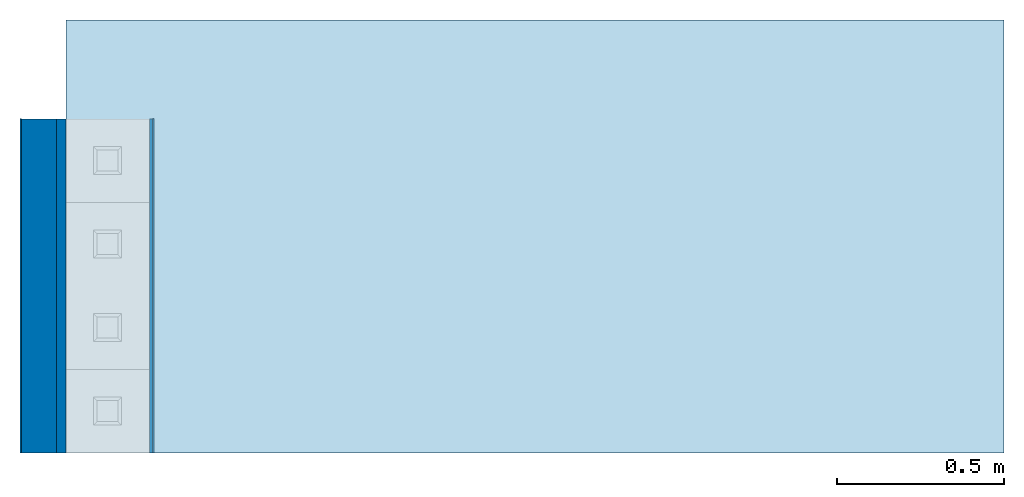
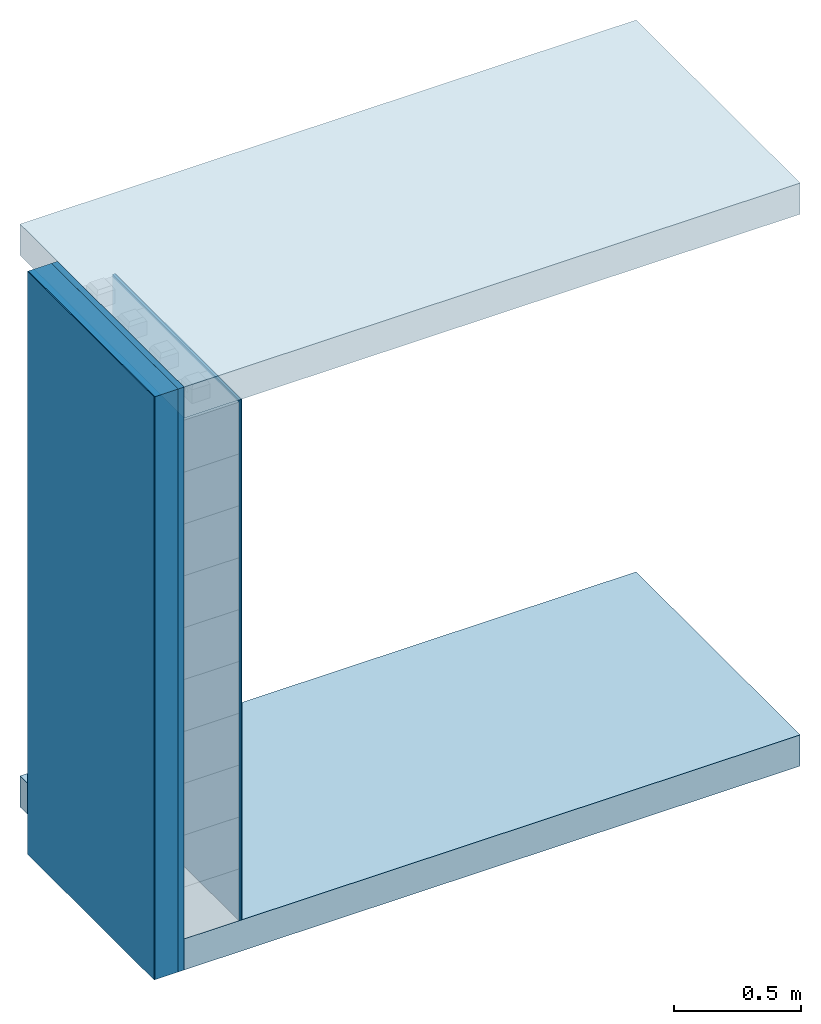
# One storey, incomplete: 5 walls, 2 slabs.
"""IFC4 building model written with IfcOpenShell, lengths in centimetres."""

from ifc_helpers import new_model, entity, si_unit, converted_unit, direction, frame, origin, place, context, subcontext, project, spatial, indexed_curve, outline, extrude, material, constituent, constituent_set, type_object, element, save


model = new_model("IFC4")

# Units and contexts
model_context = context("Model", 3, precision=0.001, world=origin(), true_north=direction((0.0, 1.0)))
body_context = subcontext(model_context, "Body", "Model", "MODEL_VIEW")
ifc_project = project(units=[si_unit("LENGTHUNIT", "METRE", prefix="CENTI"), si_unit("AREAUNIT", "SQUARE_METRE"), si_unit("VOLUMEUNIT", "CUBIC_METRE"), converted_unit("PLANEANGLEUNIT", "DEGREE", entity("IfcPlaneAngleMeasure", 0.017453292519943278), si_unit("PLANEANGLEUNIT", "RADIAN"), dimensions=[0, 0, 0, 0, 0, 0, 0])], contexts=[model_context])

# Site, building, storey
site_placement = place(None, origin())
site = spatial("IfcSite", under=ifc_project, at=site_placement, Name="Default", CompositionType="ELEMENT")
building_placement = place(site_placement, origin())
building = spatial("IfcBuilding", under=site, at=building_placement, CompositionType="ELEMENT")
storey_placement = place(building_placement, frame((0.0, 0.0, -12.0)))
storey = spatial("IfcBuildingStorey", under=building, at=storey_placement, Name="L00__ABOVE Slab", CompositionType="ELEMENT", Elevation=-12.000000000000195)

# Slabs
ifc_material_1 = material(Name="_STRUCTURE__Wood")
slab_type = type_object("IfcSlabType", Name="Floors : Floor : flr__STRUCTURE__Wood Beams 15cm__TriqBriq", PredefinedType="FLOOR", material=ifc_material_1)
slab_1_placement = place(storey_placement, origin())
element("IfcSlab", 1, at=slab_1_placement, inside=storey, type_object=slab_type, material=ifc_material_1, Name="Floors : Floor : flr__STRUCTURE__Wood Beams 15cm__TriqBriq", PredefinedType="FLOOR", context=body_context, shape_type="SweptSolid", body=[
    extrude(outline(indexed_curve([(-64.8000000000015, -140.44999999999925), (64.80000000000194, -140.44999999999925), (64.8000000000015, 140.44999999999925), (-64.80000000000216, 140.44999999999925), (-64.8000000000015, -140.44999999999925)], self_intersect=False)), frame((5074.59945666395, 1219.3650447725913, 10.0), z_axis=(0.0, 0.0, -1.0), x_axis=(0.0, 1.0, 0.0)), (0.0, 0.0, 1.0), 15.000000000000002),
])
slab_2_placement = place(storey_placement, origin())
element("IfcSlab", 2, at=slab_2_placement, inside=storey, type_object=slab_type, material=ifc_material_1, Name="Floors : Floor : flr__STRUCTURE__Wood Beams 15cm__TriqBriq", PredefinedType="FLOOR", context=body_context, shape_type="SweptSolid", body=[
    extrude(outline(indexed_curve([(-64.8000000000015, -140.44999999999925), (64.80000000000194, -140.44999999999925), (64.8000000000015, 140.44999999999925), (-64.80000000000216, 140.44999999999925), (-64.8000000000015, -140.44999999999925)], self_intersect=False)), frame((5074.59945666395, 1219.3650447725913, 276.0), z_axis=(0.0, 0.0, -1.0), x_axis=(0.0, 1.0, 0.0)), (0.0, 0.0, 1.0), 15.0),
])

# Walls
ifc_material_2 = material(Name="_FND LAYERS__Insulation__Foam Glass__Glapor", Category="Unassigned")
ifc_constituent_1 = constituent(ifc_material_2, Name="_FND LAYERS__Insulation__Foam Glass__Glapor", Category="Unassigned", fraction=1.0)
ifc_constituent_set_1 = constituent_set(constituents=[ifc_constituent_1], Name="Basic Wall:wll__WP & INSULATION_1cm")
wall_type_1 = type_object("IfcWallType", Name="Walls : Basic Wall : wll__WP & INSULATION_1cm", PredefinedType="STANDARD", material=ifc_constituent_set_1)
wall_1_placement = place(storey_placement, frame((4959.649456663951, 1154.5650447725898, 10.0), z_axis=(0.0, 0.0, 1.0), x_axis=(0.0, 1.0, 0.0)))
element("IfcWall", 3, at=wall_1_placement, inside=storey, type_object=wall_type_1, material=ifc_constituent_set_1, Name="Walls : Basic Wall : wll__WP & INSULATION_1cm", PredefinedType="NOTDEFINED", context=body_context, shape_type="SweptSolid", body=[
    extrude(outline(indexed_curve([(100.00000000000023, 0.499999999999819), (4.668391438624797e-15, 0.4999999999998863), (-4.668391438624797e-15, -0.4999999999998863), (100.00000000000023, -0.4999999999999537), (100.00000000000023, 0.499999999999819)], self_intersect=False)), origin(), (0.0, 0.0, 1.0), 251.00000000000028),
])
ifc_material_3 = material(Name="_FCD VENT LAYERS__Support Board__3-Layered Wood Board", Category="Ceramic")
wall_type_2 = type_object("IfcWallType", Name="Walls : Basic Wall : wll__INT PARTITION__3-Ply Wood 2.7cm__TriqBriq, CI.1", PredefinedType="STANDARD")
wall_2_placement = place(storey_placement, frame((4932.799456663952, 1254.56504477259, -5.0), z_axis=(0.0, 0.0, 1.0), x_axis=(0.0, -1.0, 0.0)))
element("IfcWall", 4, at=wall_2_placement, inside=storey, type_object=wall_type_2, material=ifc_material_3, Name="Walls : Basic Wall : wll__INT PARTITION__3-Ply Wood 2.7cm__TriqBriq, CI.1", PredefinedType="NOTDEFINED", context=body_context, shape_type="SweptSolid", body=[
    extrude(outline(indexed_curve([(100.00000000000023, 1.3499999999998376), (-1.9491608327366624e-15, 1.349999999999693), (1.9491608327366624e-15, -1.349999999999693), (100.00000000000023, -1.3499999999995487), (100.00000000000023, 1.3499999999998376)], self_intersect=False)), origin(), (0.0, 0.0, 1.0), 281.0000000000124),
])
ifc_material_4 = material(Name="_WLL & CLG FINISHES__Spray-cork", Category="플라스틱")
ifc_constituent_2 = constituent(ifc_material_4, Name="_WLL & CLG FINISHES__Spray-cork", Category="플라스틱", fraction=1.0)
ifc_constituent_set_2 = constituent_set(constituents=[ifc_constituent_2], Name="Basic Wall:wll__INT FINISH__Spritzkork 0.4cm__TriqBriq, TN.1")
wall_type_3 = type_object("IfcWallType", Name="Walls : Basic Wall : wll__INT FINISH__Spritzkork 0.4cm__TriqBriq, TN.1", PredefinedType="STANDARD", material=ifc_constituent_set_2)
wall_3_placement = place(storey_placement, frame((4920.649456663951, 1254.56504477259, -5.0), z_axis=(0.0, 0.0, 1.0), x_axis=(0.0, -1.0, 0.0)))
element("IfcWall", 5, at=wall_3_placement, inside=storey, type_object=wall_type_3, material=ifc_constituent_set_2, Name="Walls : Basic Wall : wll__INT FINISH__Spritzkork 0.4cm__TriqBriq, TN.1", PredefinedType="NOTDEFINED", context=body_context, shape_type="SweptSolid", body=[
    extrude(outline(indexed_curve([(100.00000000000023, 0.2000000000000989), (-2.8876456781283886e-16, 0.19999999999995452), (2.8876456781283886e-16, -0.19999999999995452), (100.00000000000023, -0.19999999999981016), (100.00000000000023, 0.2000000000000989)], self_intersect=False)), origin(), (0.0, 0.0, 1.0), 281.0000000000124),
])
wall_4_placement = place(storey_placement, frame((4960.349456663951, 1154.5650447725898, 10.0), z_axis=(0.0, 0.0, 1.0), x_axis=(0.0, 1.0, 0.0)))
element("IfcWall", 6, at=wall_4_placement, inside=storey, type_object=wall_type_3, material=ifc_constituent_set_2, Name="Walls : Basic Wall : wll__INT FINISH__Spritzkork 0.4cm__TriqBriq, TN.1", PredefinedType="NOTDEFINED", context=body_context, shape_type="SweptSolid", body=[
    extrude(outline(indexed_curve([(100.00000000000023, 0.19999999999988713), (1.8673565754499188e-15, 0.19999999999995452), (-1.8673565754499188e-15, -0.19999999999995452), (100.00000000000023, -0.2000000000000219), (100.00000000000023, 0.19999999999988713)], self_intersect=False)), origin(), (0.0, 0.0, 1.0), 251.00000000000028),
])
ifc_material_5 = material(Name="_FCD FINISH__Spray-cork", Category="Concrete")
ifc_constituent_3 = constituent(ifc_material_5, Name="_FCD FINISH__Spray-cork", Category="Concrete", fraction=0.05660377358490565)
ifc_material_6 = material(Name="_FCD LAYERS__Insulation__Wood-fiber__Steico", Category="Unassigned")
ifc_constituent_4 = constituent(ifc_material_6, Name="_FCD LAYERS__Insulation__Wood-fiber__Steico", Category="Unassigned", fraction=0.9433962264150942)
ifc_constituent_set_3 = constituent_set(constituents=[ifc_constituent_3, ifc_constituent_4], Name="Basic Wall:wll__EXT ENCLOSURE__Spritzkork, Wood Insulation 10.6cm__TriqBriq, FS.3")
wall_type_4 = type_object("IfcWallType", Name="Walls : Basic Wall : wll__EXT ENCLOSURE__Spritzkork, Wood Insulation 10.6cm__TriqBriq, FS.3", PredefinedType="STANDARD", material=ifc_constituent_set_3)
wall_5_placement = place(storey_placement, frame((4926.149456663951, 1254.56504477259, -5.0), z_axis=(0.0, 0.0, 1.0), x_axis=(0.0, -1.0, 0.0)))
element("IfcWall", 7, at=wall_5_placement, inside=storey, type_object=wall_type_4, material=ifc_constituent_set_3, Name="Walls : Basic Wall : wll__EXT ENCLOSURE__Spritzkork, Wood Insulation 10.6cm__TriqBriq, FS.3", PredefinedType="NOTDEFINED", context=body_context, shape_type="SweptSolid", body=[
    extrude(outline(indexed_curve([(-4.999999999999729, -50.000000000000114), (4.999999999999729, -50.000000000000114), (4.999999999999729, 50.000000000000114), (-4.999999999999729, 50.000000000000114), (-4.999999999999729, -50.000000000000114)], self_intersect=False)), frame((50.0, 0.29999999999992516, 0.0), z_axis=(0.0, 0.0, 1.0), x_axis=(0.0, -1.0, 0.0)), (0.0, 0.0, 1.0), 281.0000000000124),
    extrude(outline(indexed_curve([(-0.3000000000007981, -50.000000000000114), (0.29999999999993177, -50.000000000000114), (0.29999999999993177, 50.000000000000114), (-0.3000000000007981, 50.000000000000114), (-0.3000000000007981, -50.000000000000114)], self_intersect=False)), frame((50.0, -5.0, 0.0), z_axis=(0.0, 0.0, 1.0), x_axis=(0.0, 1.0, 0.0)), (0.0, 0.0, 1.0), 281.0000000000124),
])

save(model, "model.ifc")
